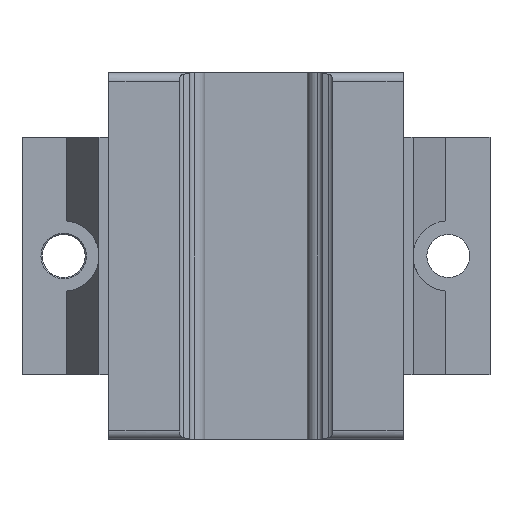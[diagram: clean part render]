
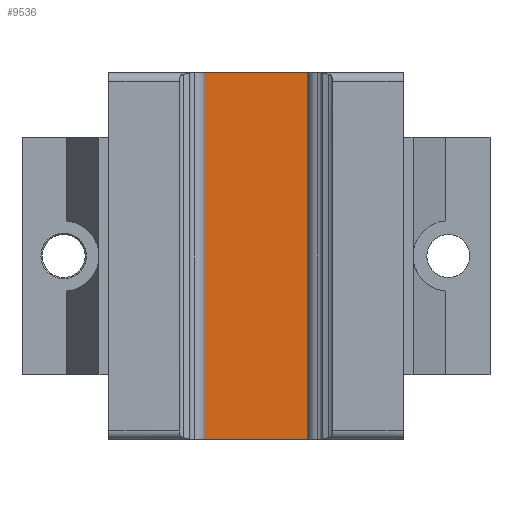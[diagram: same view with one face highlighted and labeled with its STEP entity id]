
A CAD part, front view. The second image highlights one B-rep face of the part: STEP entity #9536.
In plain terms, the highlighted planar face has unit normal (0, -1, 0).
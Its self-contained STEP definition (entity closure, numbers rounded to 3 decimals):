
#624 = VECTOR ( 'NONE', #631, 1000. ) ;
#625 = CARTESIAN_POINT ( 'NONE',  ( -9.2, 9.2, 47.05 ) ) ;
#630 = CARTESIAN_POINT ( 'NONE',  ( 8.834, 9.2, 47.05 ) ) ;
#631 = DIRECTION ( 'NONE',  ( 1., 0., 0. ) ) ;
#636 = LINE ( 'NONE', #625, #624 ) ;
#917 = CARTESIAN_POINT ( 'NONE',  ( -8.834, 9.2, 47.05 ) ) ;
#1162 = PLANE ( 'NONE',  #1220 ) ;
#1163 = FACE_OUTER_BOUND ( 'NONE', #9537, .T. ) ;
#1217 = DIRECTION ( 'NONE',  ( 0., 0., 1. ) ) ;
#1218 = DIRECTION ( 'NONE',  ( 0., 1., 0. ) ) ;
#1219 = CARTESIAN_POINT ( 'NONE',  ( 8.834, 9.2, -10.1 ) ) ;
#1220 = AXIS2_PLACEMENT_3D ( 'NONE', #1219, #1218, #1217 ) ;
#1247 = DIRECTION ( 'NONE',  ( 0., 0., 1. ) ) ;
#1248 = VECTOR ( 'NONE', #1247, 1000. ) ;
#1253 = VECTOR ( 'NONE', #1277, 1000. ) ;
#1254 = CARTESIAN_POINT ( 'NONE',  ( 8.834, 9.2, -10.1 ) ) ;
#1255 = LINE ( 'NONE', #1254, #1253 ) ;
#1260 = CARTESIAN_POINT ( 'NONE',  ( -8.834, 9.2, -10.1 ) ) ;
#1261 = LINE ( 'NONE', #1260, #1248 ) ;
#1277 = DIRECTION ( 'NONE',  ( 0., 0., 1. ) ) ;
#5132 = VERTEX_POINT ( 'NONE', #6236 ) ;
#5134 = EDGE_CURVE ( 'NONE', #5132, #5135, #6230, .T. ) ;
#5135 = VERTEX_POINT ( 'NONE', #6291 ) ;
#5650 = VERTEX_POINT ( 'NONE', #917 ) ;
#5662 = EDGE_CURVE ( 'NONE', #5650, #5669, #636, .T. ) ;
#5669 = VERTEX_POINT ( 'NONE', #630 ) ;
#6228 = VECTOR ( 'NONE', #6292, 1000. ) ;
#6229 = CARTESIAN_POINT ( 'NONE',  ( -9.2, 9.2, -10.05 ) ) ;
#6230 = LINE ( 'NONE', #6229, #6228 ) ;
#6236 = CARTESIAN_POINT ( 'NONE',  ( 8.834, 9.2, -10.05 ) ) ;
#6291 = CARTESIAN_POINT ( 'NONE',  ( -8.834, 9.2, -10.05 ) ) ;
#6292 = DIRECTION ( 'NONE',  ( -1., 0., 0. ) ) ;
#9490 = ORIENTED_EDGE ( 'NONE', *, *, #5662, .F. ) ;
#9491 = ORIENTED_EDGE ( 'NONE', *, *, #9560, .F. ) ;
#9492 = ORIENTED_EDGE ( 'NONE', *, *, #5134, .F. ) ;
#9536 = ADVANCED_FACE ( 'NONE', ( #1163 ), #1162, .F. ) ;
#9537 = EDGE_LOOP ( 'NONE', ( #9562, #9490, #9491, #9492 ) ) ;
#9560 = EDGE_CURVE ( 'NONE', #5135, #5650, #1261, .T. ) ;
#9562 = ORIENTED_EDGE ( 'NONE', *, *, #9563, .T. ) ;
#9563 = EDGE_CURVE ( 'NONE', #5132, #5669, #1255, .T. ) ;
